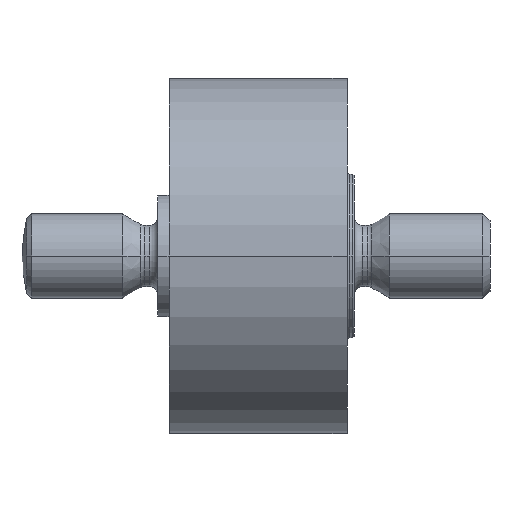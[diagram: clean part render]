
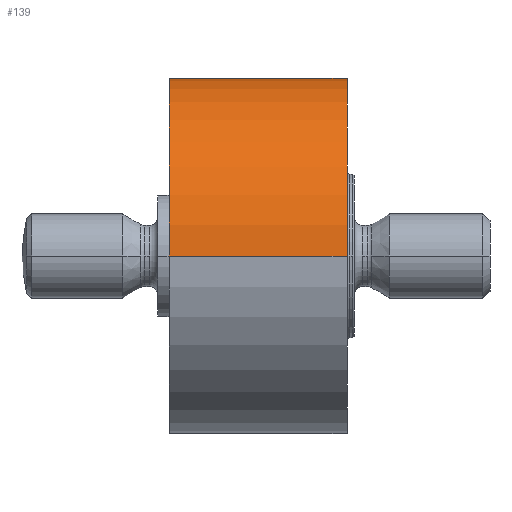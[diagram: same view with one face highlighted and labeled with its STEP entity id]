
A CAD part, left-side view. The second image highlights one B-rep face of the part: STEP entity #139.
In plain terms, the highlighted cylindrical face has radius 12.7 mm (diameter 25.4 mm), a partial arc.
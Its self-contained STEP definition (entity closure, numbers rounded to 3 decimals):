
#139=ADVANCED_FACE('',(#255),#256,.T.);
#255=FACE_OUTER_BOUND('',#465,.T.);
#256=CYLINDRICAL_SURFACE('',#466,12.7);
#465=EDGE_LOOP('',(#804,#805,#806,#807,#808,#809));
#466=AXIS2_PLACEMENT_3D('',#810,#811,#812);
#804=ORIENTED_EDGE('',*,*,#1490,.F.);
#805=ORIENTED_EDGE('',*,*,#1491,.T.);
#806=ORIENTED_EDGE('',*,*,#1492,.F.);
#807=ORIENTED_EDGE('',*,*,#1493,.F.);
#808=ORIENTED_EDGE('',*,*,#1494,.F.);
#809=ORIENTED_EDGE('',*,*,#1495,.T.);
#810=CARTESIAN_POINT('',(0.0,5.1,0.0));
#811=DIRECTION('',(0.0,-1.0,0.0));
#812=DIRECTION('',(1.0,0.0,0.0));
#1490=EDGE_CURVE('',#1774,#1775,#1776,.T.);
#1491=EDGE_CURVE('',#1774,#1777,#1778,.T.);
#1492=EDGE_CURVE('',#1779,#1777,#1780,.T.);
#1493=EDGE_CURVE('',#1781,#1779,#1782,.T.);
#1494=EDGE_CURVE('',#1783,#1781,#1784,.T.);
#1495=EDGE_CURVE('',#1783,#1775,#1785,.T.);
#1774=VERTEX_POINT('',#2161);
#1775=VERTEX_POINT('',#2162);
#1776=LINE('',#2163,#2164);
#1777=VERTEX_POINT('',#2165);
#1778=CIRCLE('',#2166,12.7);
#1779=VERTEX_POINT('',#2167);
#1780=LINE('',#2168,#2169);
#1781=VERTEX_POINT('',#2170);
#1782=CIRCLE('',#2171,12.7);
#1783=VERTEX_POINT('',#2172);
#1784=LINE('',#2173,#2174);
#1785=B_SPLINE_CURVE_WITH_KNOTS('',3,(#2175,#2176,#2177,#2178,#2179,#2180,#2181,#2182,#2183,#2184,#2185,#2186,#2187,#2188,#2189,#2190,#2191,#2192,#2193),.UNSPECIFIED.,.F.,.F.,(4,2,2,2,3,2,2,2,4),(1.476,1.599,1.722,1.845,1.968,2.091,2.214,2.337,2.46),.UNSPECIFIED.);
#2161=CARTESIAN_POINT('',(12.7,10.2,0.0));
#2162=CARTESIAN_POINT('',(12.7,7.25,0.0));
#2163=CARTESIAN_POINT('',(12.7,5.1,0.));
#2164=VECTOR('',#2750,1.0);
#2165=CARTESIAN_POINT('',(-12.7,10.2,0.));
#2166=AXIS2_PLACEMENT_3D('',#2751,#2752,#2753);
#2167=CARTESIAN_POINT('',(-12.7,-2.5,0.));
#2168=CARTESIAN_POINT('',(-12.7,5.1,0.));
#2169=VECTOR('',#2754,1.0);
#2170=CARTESIAN_POINT('',(12.7,-2.5,0.0));
#2171=AXIS2_PLACEMENT_3D('',#2755,#2756,#2757);
#2172=CARTESIAN_POINT('',(12.7,0.75,0.0));
#2173=CARTESIAN_POINT('',(12.7,5.1,0.));
#2174=VECTOR('',#2758,1.0);
#2175=CARTESIAN_POINT('',(12.7,0.75,0.0));
#2176=CARTESIAN_POINT('',(12.7,0.75,0.41));
#2177=CARTESIAN_POINT('',(12.678,0.832,0.846));
#2178=CARTESIAN_POINT('',(12.599,1.165,1.646));
#2179=CARTESIAN_POINT('',(12.543,1.414,2.011));
#2180=CARTESIAN_POINT('',(12.437,1.989,2.586));
#2181=CARTESIAN_POINT('',(12.381,2.354,2.835));
#2182=CARTESIAN_POINT('',(12.3,3.154,3.168));
#2183=CARTESIAN_POINT('',(12.277,3.59,3.25));
#2184=CARTESIAN_POINT('',(12.277,4.0,3.25));
#2185=CARTESIAN_POINT('',(12.277,4.41,3.25));
#2186=CARTESIAN_POINT('',(12.3,4.846,3.168));
#2187=CARTESIAN_POINT('',(12.381,5.646,2.835));
#2188=CARTESIAN_POINT('',(12.437,6.011,2.586));
#2189=CARTESIAN_POINT('',(12.543,6.586,2.011));
#2190=CARTESIAN_POINT('',(12.599,6.835,1.646));
#2191=CARTESIAN_POINT('',(12.678,7.168,0.846));
#2192=CARTESIAN_POINT('',(12.7,7.25,0.41));
#2193=CARTESIAN_POINT('',(12.7,7.25,0.));
#2750=DIRECTION('',(0.0,-1.0,0.0));
#2751=CARTESIAN_POINT('',(0.0,10.2,0.0));
#2752=DIRECTION('',(0.0,-1.0,0.0));
#2753=DIRECTION('',(1.0,0.0,0.0));
#2754=DIRECTION('',(0.0,1.0,0.0));
#2755=CARTESIAN_POINT('',(0.0,-2.5,0.0));
#2756=DIRECTION('',(0.0,-1.0,0.0));
#2757=DIRECTION('',(1.0,0.0,0.0));
#2758=DIRECTION('',(0.0,-1.0,0.0));
